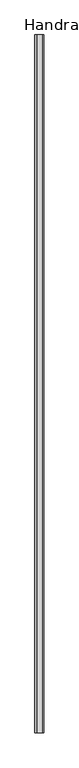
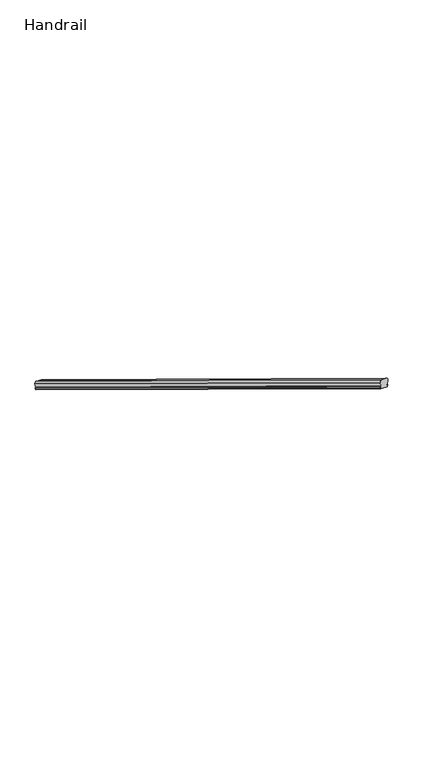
"""IFC4 building model written with IfcOpenShell, lengths in millimetres: railing geometry, Handrail."""

from ifc_helpers import new_model, si_unit, frame, origin, place, context, project, spatial, ellipse_curve, source, transform, mapped, element, save
from ifc_brep_helpers import plane_surface, cylinder_surface, advanced_brep


def handrail_21766647(model_context):
    return source(origin(), model_context, "Body", "AdvancedBrep", [
        advanced_brep(
        [(-9133.0163349, 8900.1786599, 1084.4388889), (-9183.8163349, 8900.1786599, 1084.4388889), (-9183.8163349, 8900.1786599, 1092.1990698), (-9183.8163349, 8900.1786599, 1101.1016032), (-9183.8163349, 8900.1786599, 1106.7394079), (-9188.8503038, 8900.1786599, 1137.3825898), (-9176.3788219, 8900.1786599, 1155.057199), (-9140.4538479, 8900.1786599, 1155.057199), (-9127.982366, 8900.1786599, 1137.3825898), (-9133.0163349, 8900.1786599, 1106.7394079), (-9133.0163349, 8900.1786599, 1101.1016032), (-9133.0163349, 8900.1786599, 1092.1990698), (-9133.0163349, 4150.3786599, 3975.1), (-9133.0163349, 4150.3786599, 3982.8601809), (-9133.0163349, 4150.3786599, 3991.7627143), (-9133.0163349, 4150.3786599, 3997.400519), (-9127.982366, 4150.3786599, 4028.0437009), (-9140.4538479, 4150.3786599, 4045.7183102), (-9176.3788219, 4150.3786599, 4045.7183102), (-9188.8503038, 4150.3786599, 4028.0437009), (-9183.8163349, 4150.3786599, 3997.400519), (-9183.8163349, 4150.3786599, 3991.7627143), (-9183.8163349, 4150.3786599, 3982.8601809), (-9183.8163349, 4150.3786599, 3975.1)],
        [
            (0, 1),
            (1, 2),
            (2, 3, ellipse_curve(frame((-9183.8163349, 8900.1786599, 1096.6503365), z_axis=(0.0, 1.0, 0.0), x_axis=(0.0, 0.0, -1.0)), 4.4512667, 3.802451)),
            (3, 4),
            (4, 5),
            (5, 6, ellipse_curve(frame((-9176.3788219, 8900.1786599, 1140.1901864), z_axis=(0.0, 1.0, 0.0), x_axis=(0.0, 0.0, -1.0)), 14.8670127, 12.7)),
            (6, 7),
            (7, 8, ellipse_curve(frame((-9140.4538479, 8900.1786599, 1140.1901864), z_axis=(0.0, 1.0, 0.0), x_axis=(0.0, 0.0, -1.0)), 14.8670127, 12.7)),
            (8, 9),
            (9, 10),
            (10, 11, ellipse_curve(frame((-9133.0163349, 8900.1786599, 1096.6503365), z_axis=(0.0, 1.0, 0.0), x_axis=(0.0, 0.0, -1.0)), 4.4512667, 3.802451)),
            (11, 0),
            (12, 13),
            (13, 14, ellipse_curve(frame((-9133.0163349, 4150.3786599, 3987.3114476), z_axis=(0.0, -1.0, 0.0), x_axis=(0.0, 0.0, -1.0)), 4.4512667, 3.802451)),
            (14, 15),
            (15, 16),
            (16, 17, ellipse_curve(frame((-9140.4538479, 4150.3786599, 4030.8512975), z_axis=(0.0, -1.0, 0.0), x_axis=(0.0, 0.0, -1.0)), 14.8670127, 12.7)),
            (17, 18),
            (18, 19, ellipse_curve(frame((-9176.3788219, 4150.3786599, 4030.8512975), z_axis=(0.0, -1.0, 0.0), x_axis=(0.0, 0.0, -1.0)), 14.8670127, 12.7)),
            (19, 20),
            (20, 21),
            (21, 22, ellipse_curve(frame((-9183.8163349, 4150.3786599, 3987.3114476), z_axis=(0.0, -1.0, 0.0), x_axis=(0.0, 0.0, -1.0)), 4.4512667, 3.802451)),
            (22, 23),
            (23, 12),
            (0, 12),
            (23, 1),
            (22, 2),
            (21, 3),
            (20, 4),
            (19, 5),
            (18, 6),
            (17, 7),
            (16, 8),
            (15, 9),
            (14, 10),
            (13, 11),
        ],
        [
            plane_surface(frame((-9158.4163349, 8900.1786599, 1084.4388889), z_axis=(0.0, 1.0, 0.0), x_axis=(0.0, 0.0, -1.0))),
            plane_surface(frame((-9158.4163349, 4150.3786599, 3975.1), z_axis=(0.0, -1.0, 0.0), x_axis=(0.0, 0.0, -1.0))),
            plane_surface(frame((-9133.0163349, 8900.1786599, 1084.4388889), z_axis=(0.0, -0.519878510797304, -0.8542402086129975), x_axis=(0.0, -0.8542402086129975, 0.519878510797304))),
            plane_surface(frame((-9183.8163349, 8900.1786599, 1084.4388889), z_axis=(-1.0, 0.0, 0.0), x_axis=(0.0, -0.8542402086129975, 0.519878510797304))),
            cylinder_surface(frame((-9183.8163349, 8905.6017775, 1093.3499038), z_axis=(0.0, 0.8542402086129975, -0.519878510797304), x_axis=(1.0, 0.0, 0.0)), 3.802451),
            plane_surface(frame((-9183.8163349, 8900.1786599, 1101.1016032), z_axis=(-1.0, 0.0, 0.0), x_axis=(0.0, -0.8542402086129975, 0.5198785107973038))),
            plane_surface(frame((-9183.8163349, 8900.1786599, 1106.7394079), z_axis=(-0.9820064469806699, -0.09817770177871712, -0.16132103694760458), x_axis=(0.0, -0.8542402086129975, 0.519878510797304))),
            cylinder_surface(frame((-9176.3788219, 8924.937874, 1125.1220788), z_axis=(0.0, 0.8542402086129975, -0.519878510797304), x_axis=(1.0, 0.0, 0.0)), 12.7),
            plane_surface(frame((-9176.3788219, 8900.1786599, 1155.057199), z_axis=(0.0, 0.519878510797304, 0.8542402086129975), x_axis=(0.0, -0.8542402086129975, 0.519878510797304))),
            cylinder_surface(frame((-9140.4538479, 8924.937874, 1125.1220788), z_axis=(0.0, 0.8542402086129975, -0.519878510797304), x_axis=(1.0, 0.0, 0.0)), 12.7),
            plane_surface(frame((-9127.982366, 8900.1786599, 1137.3825898), z_axis=(0.9820064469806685, -0.09817770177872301, -0.16132103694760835), x_axis=(0.0, -0.8542402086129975, 0.519878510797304))),
            plane_surface(frame((-9133.0163349, 8900.1786599, 1106.7394079), z_axis=(1.0, 0.0, 0.0), x_axis=(0.0, -0.8542402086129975, 0.519878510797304))),
            cylinder_surface(frame((-9133.0163349, 8905.6017775, 1093.3499038), z_axis=(0.0, 0.8542402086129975, -0.519878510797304), x_axis=(1.0, 0.0, 0.0)), 3.802451),
            plane_surface(frame((-9133.0163349, 8900.1786599, 1092.1990698), z_axis=(1.0, 0.0, 0.0), x_axis=(0.0, -0.8542402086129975, 0.519878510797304))),
        ],
        [
            (0, [[1, 2, 3, 4, 5, 6, 7, 8, 9, 10, 11, 12]]),
            (1, [[13, 14, 15, 16, 17, 18, 19, 20, 21, 22, 23, 24]]),
            (2, [[-1, 25, -24, 26]]),
            (3, [[-2, -26, -23, 27]]),
            (4, [[-3, -27, -22, 28]]),
            (5, [[-4, -28, -21, 29]]),
            (6, [[-5, -29, -20, 30]]),
            (7, [[-6, -30, -19, 31]]),
            (8, [[-7, -31, -18, 32]]),
            (9, [[-8, -32, -17, 33]]),
            (10, [[-9, -33, -16, 34]]),
            (11, [[-10, -34, -15, 35]]),
            (12, [[-11, -35, -14, 36]]),
            (13, [[-12, -36, -13, -25]]),
        ],
    ),
    ])


if __name__ == "__main__":
    model = new_model("IFC4")
    model_context = context("Model", 3, world=origin())
    ifc_project = project(units=[si_unit("LENGTHUNIT", "METRE", prefix="MILLI")], contexts=[model_context])
    site = spatial("IfcSite", under=ifc_project)
    building = spatial("IfcBuilding", under=site)
    placement = place(None, origin())
    handrail_shape = handrail_21766647(model_context)
    element("IfcRailing", 1, ObjectType="Handrail", at=placement, inside=building, context=model_context, shape_type="MappedRepresentation", body=[
        mapped(handrail_shape, transform((0.0, 0.0, 0.0), x_axis=(1.0, 0.0, 0.0), y_axis=(0.0, 1.0, 0.0), z_axis=(0.0, 0.0, 1.0))),
    ])
    save(model, "model.ifc")
